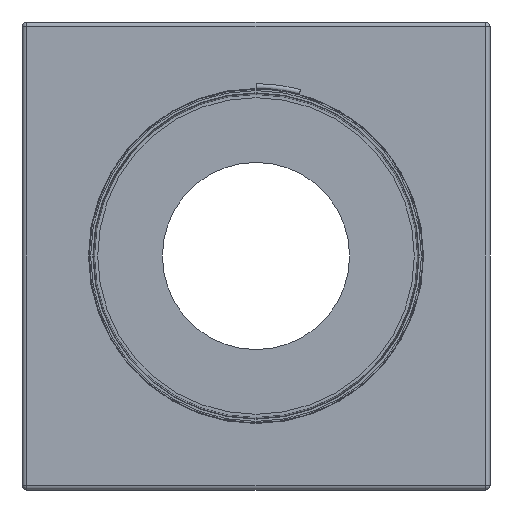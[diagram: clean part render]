
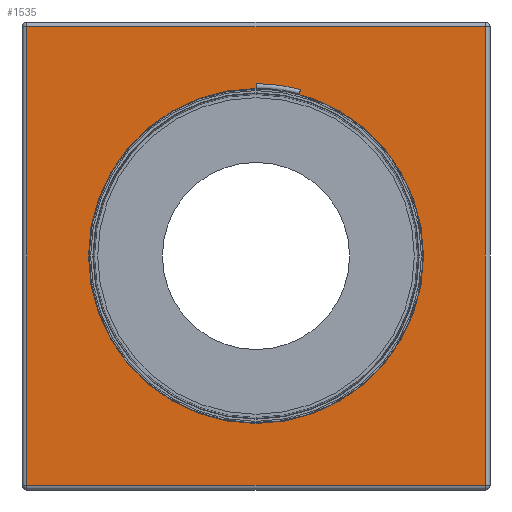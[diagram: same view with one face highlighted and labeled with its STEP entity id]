
A CAD part, front view. The second image highlights one B-rep face of the part: STEP entity #1535.
In plain terms, the highlighted planar face has unit normal (0, -1, 0).
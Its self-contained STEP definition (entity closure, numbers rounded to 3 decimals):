
#81=FACE_BOUND('',#369,.T.);
#140=PLANE('',#1725);
#223=FACE_OUTER_BOUND('',#368,.T.);
#368=EDGE_LOOP('',(#1221,#1222,#1223,#1224));
#369=EDGE_LOOP('',(#1225));
#490=LINE('',#2526,#554);
#494=LINE('',#2546,#558);
#496=LINE('',#2549,#560);
#502=LINE('',#2558,#566);
#554=VECTOR('',#2055,10.);
#558=VECTOR('',#2079,10.);
#560=VECTOR('',#2083,10.);
#566=VECTOR('',#2095,10.);
#656=CIRCLE('',#1726,365.);
#755=VERTEX_POINT('',#2483);
#764=VERTEX_POINT('',#2507);
#767=VERTEX_POINT('',#2517);
#773=VERTEX_POINT('',#2537);
#775=VERTEX_POINT('',#2569);
#918=EDGE_CURVE('',#755,#767,#490,.T.);
#928=EDGE_CURVE('',#767,#773,#494,.T.);
#930=EDGE_CURVE('',#773,#764,#496,.T.);
#936=EDGE_CURVE('',#764,#755,#502,.T.);
#942=EDGE_CURVE('',#775,#775,#656,.T.);
#1221=ORIENTED_EDGE('',*,*,#918,.F.);
#1222=ORIENTED_EDGE('',*,*,#936,.F.);
#1223=ORIENTED_EDGE('',*,*,#930,.F.);
#1224=ORIENTED_EDGE('',*,*,#928,.F.);
#1225=ORIENTED_EDGE('',*,*,#942,.T.);
#1535=ADVANCED_FACE('',(#223,#81),#140,.T.);
#1725=AXIS2_PLACEMENT_3D('',#2568,#2109,#2110);
#1726=AXIS2_PLACEMENT_3D('',#2570,#2111,#2112);
#2055=DIRECTION('',(0.,0.,1.));
#2079=DIRECTION('',(1.,0.,0.));
#2083=DIRECTION('',(0.,0.,-1.));
#2095=DIRECTION('',(-1.,0.,0.));
#2109=DIRECTION('center_axis',(0.,-1.,0.));
#2110=DIRECTION('ref_axis',(0.,0.,-1.));
#2111=DIRECTION('center_axis',(0.,1.,0.));
#2112=DIRECTION('ref_axis',(0.,0.,1.));
#2483=CARTESIAN_POINT('',(-500.,-510.,-500.));
#2507=CARTESIAN_POINT('',(500.,-510.,-500.));
#2517=CARTESIAN_POINT('',(-500.,-510.,500.));
#2526=CARTESIAN_POINT('',(-500.,-510.,-255.));
#2537=CARTESIAN_POINT('',(500.,-510.,500.));
#2546=CARTESIAN_POINT('',(-255.,-510.,500.));
#2549=CARTESIAN_POINT('',(500.,-510.,255.));
#2558=CARTESIAN_POINT('',(255.,-510.,-500.));
#2568=CARTESIAN_POINT('Origin',(0.,-510.,0.));
#2569=CARTESIAN_POINT('',(0.,-510.,365.));
#2570=CARTESIAN_POINT('Origin',(0.,-510.,0.));
